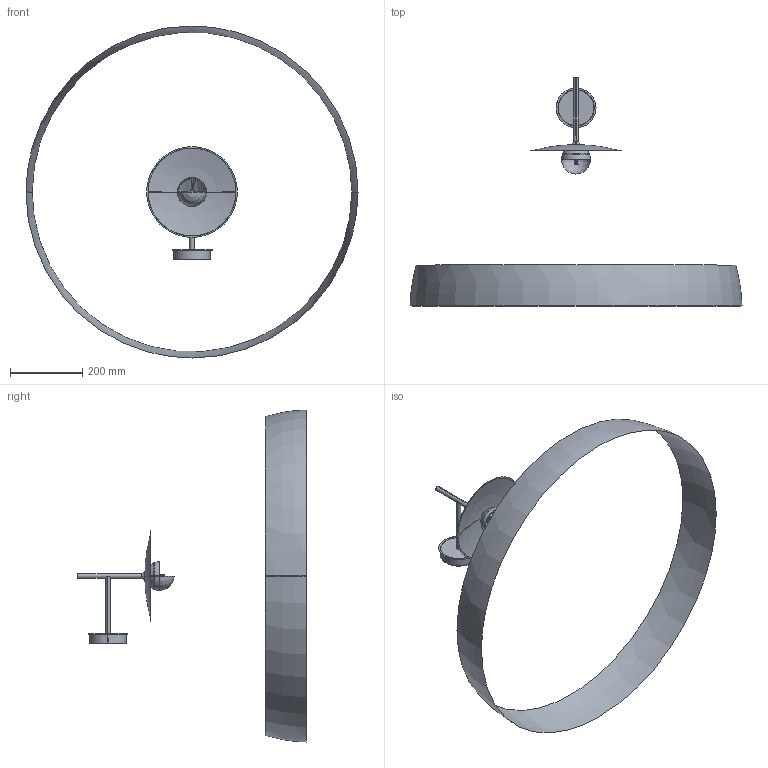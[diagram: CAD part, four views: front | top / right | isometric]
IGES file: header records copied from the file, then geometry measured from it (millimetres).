
Start section: SolidWorks IGES file using analytic representation for surfaces
Global section: file name: F:\燠隴矨\3D\2025-5\Gea Iron Wall Lamp.IGS,15; native system: HSolidWorks 2022; preprocessor: SolidWorks 2022; author: MyPC; date: 250522.095805; units: millimetre
Bounding box: 916.18 x 629.84 x 916.18 mm (x, y, z)
Surface area: 481448.1 mm2 (no closed solid volume)
Topology: 0 solids, 0 shells, 242 faces, 2953 edges, 2950 vertices
Faces by surface type: bspline 174, revolution 68
